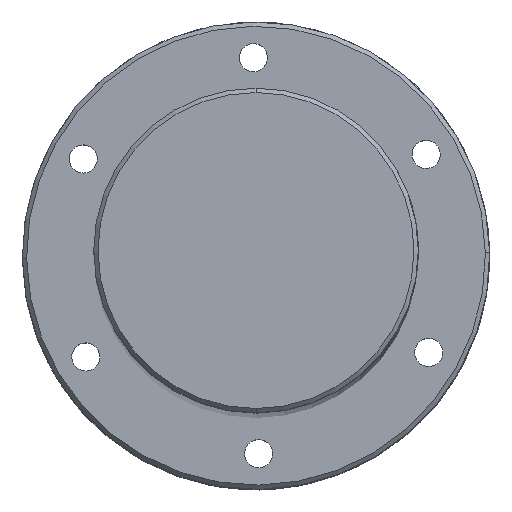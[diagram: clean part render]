
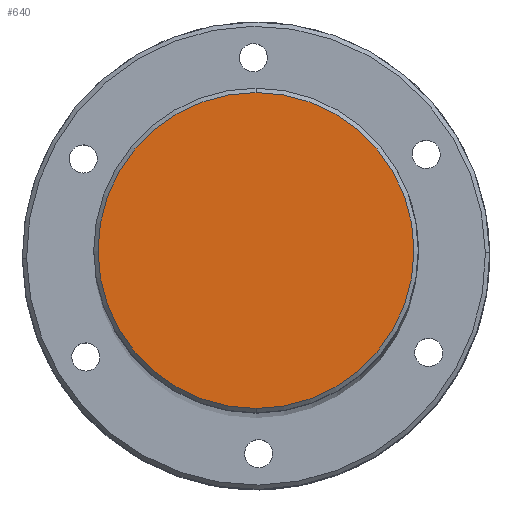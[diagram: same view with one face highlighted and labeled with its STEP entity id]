
A CAD part, top view. The second image highlights one B-rep face of the part: STEP entity #640.
In plain terms, the highlighted planar face has unit normal (0, 0, 1) as drawn and (-1, 0, 0) by its records, which use the part's own axes.
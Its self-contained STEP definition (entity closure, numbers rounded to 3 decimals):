
#209 = ORIENTED_EDGE ( 'NONE', *, *, #16590, .T. ) ;
#312 = AXIS2_PLACEMENT_3D ( 'NONE', #4980, #2205, #10388 ) ;
#640 = ADVANCED_FACE ( 'NONE', ( #6282 ), #14506, .F. ) ;
#1534 = CARTESIAN_POINT ( 'NONE',  ( 0., 0., -36.5 ) ) ;
#1573 = CARTESIAN_POINT ( 'NONE',  ( 0., 0., 36.5 ) ) ;
#2205 = DIRECTION ( 'NONE',  ( -1., 0., 0. ) ) ;
#4980 = CARTESIAN_POINT ( 'NONE',  ( 0., 0., 0. ) ) ;
#6282 = FACE_OUTER_BOUND ( 'NONE', #10792, .T. ) ;
#7013 = CARTESIAN_POINT ( 'NONE',  ( 0., 0., 0. ) ) ;
#8218 = AXIS2_PLACEMENT_3D ( 'NONE', #7013, #9835, #12444 ) ;
#8794 = VERTEX_POINT ( 'NONE', #1573 ) ;
#9188 = DIRECTION ( 'NONE',  ( 1., 0., 0. ) ) ;
#9273 = EDGE_CURVE ( 'NONE', #8794, #11233, #13085, .T. ) ;
#9835 = DIRECTION ( 'NONE',  ( -1., 0., 0. ) ) ;
#10388 = DIRECTION ( 'NONE',  ( 0., 0., -1. ) ) ;
#10544 = DIRECTION ( 'NONE',  ( 0., 0., -1. ) ) ;
#10719 = ORIENTED_EDGE ( 'NONE', *, *, #9273, .T. ) ;
#10792 = EDGE_LOOP ( 'NONE', ( #209, #10719 ) ) ;
#10890 = AXIS2_PLACEMENT_3D ( 'NONE', #15825, #9188, #10544 ) ;
#11233 = VERTEX_POINT ( 'NONE', #1534 ) ;
#12444 = DIRECTION ( 'NONE',  ( 0., 0., -1. ) ) ;
#13085 = CIRCLE ( 'NONE', #312, 36.5 ) ;
#14506 = PLANE ( 'NONE',  #10890 ) ;
#15794 = CIRCLE ( 'NONE', #8218, 36.5 ) ;
#15825 = CARTESIAN_POINT ( 'NONE',  ( 0., 0., 0. ) ) ;
#16590 = EDGE_CURVE ( 'NONE', #11233, #8794, #15794, .T. ) ;
